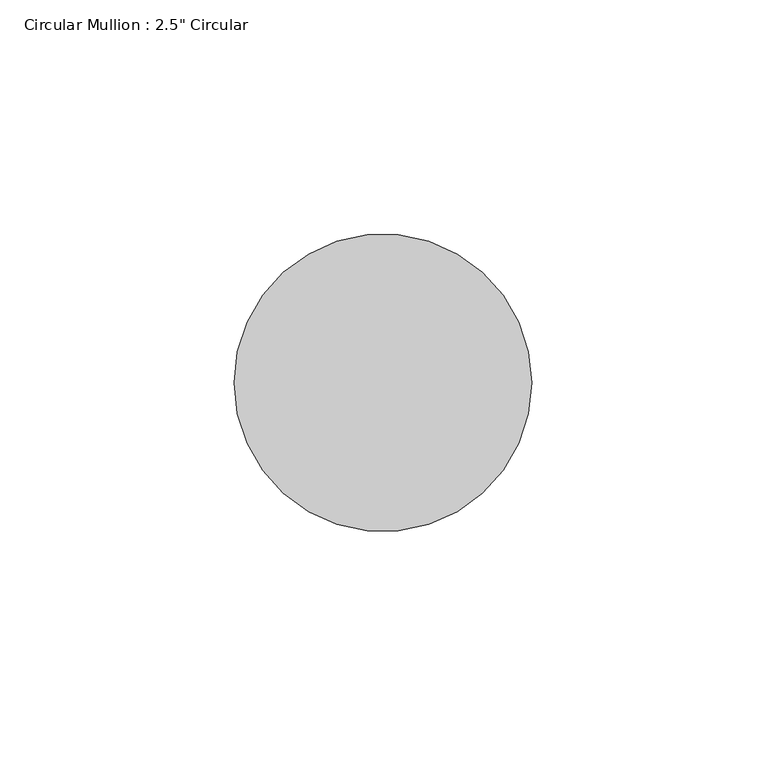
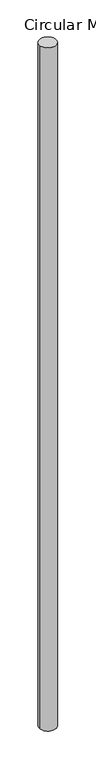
"""IFC4 building model written with IfcOpenShell, lengths in millimetres: member geometry."""

from ifc_helpers import new_model, si_unit, point, frame, frame_2d, origin, place, context, project, spatial, circle_curve, trimmed, segment, composite_curve, outline, extrude, source, transform, mapped, element, save


def member_344061e7(model_context):
    return source(origin(), model_context, "Body", "SweptSolid", [
        extrude(outline(composite_curve([segment(trimmed(circle_curve(frame_2d((-31.75, 0.0)), 31.75), [point((0.0, 0.0))], [point((-63.5, 0.0))], False, "CARTESIAN"), True, "CONTINUOUS"), segment(trimmed(circle_curve(frame_2d((-31.75, 0.0)), 31.75), [point((-63.5, 0.0))], [point((0.0, 0.0))], False, "CARTESIAN"), True, "CONTINUOUS")], self_intersect=False)), frame((0.0, 0.0, -2762.394604), z_axis=(0.0, 0.0, 1.0), x_axis=(1.0, 0.0, 0.0)), (0.0, 0.0, 1.0), 2762.394604),
    ])


if __name__ == "__main__":
    model = new_model("IFC4")
    model_context = context("Model", 3, world=origin())
    ifc_project = project(units=[si_unit("LENGTHUNIT", "METRE", prefix="MILLI")], contexts=[model_context])
    site = spatial("IfcSite", under=ifc_project)
    building = spatial("IfcBuilding", under=site)
    placement = place(None, origin())
    member_shape = member_344061e7(model_context)
    element("IfcMember", 1, ObjectType="Circular Mullion : 2.5\" Circular", at=placement, inside=building, context=model_context, shape_type="MappedRepresentation", body=[
        mapped(member_shape, transform((0.0, 0.0, 0.0), x_axis=(1.0, 0.0, 0.0), y_axis=(0.0, 1.0, 0.0), z_axis=(0.0, 0.0, 1.0))),
    ])
    save(model, "model.ifc")
